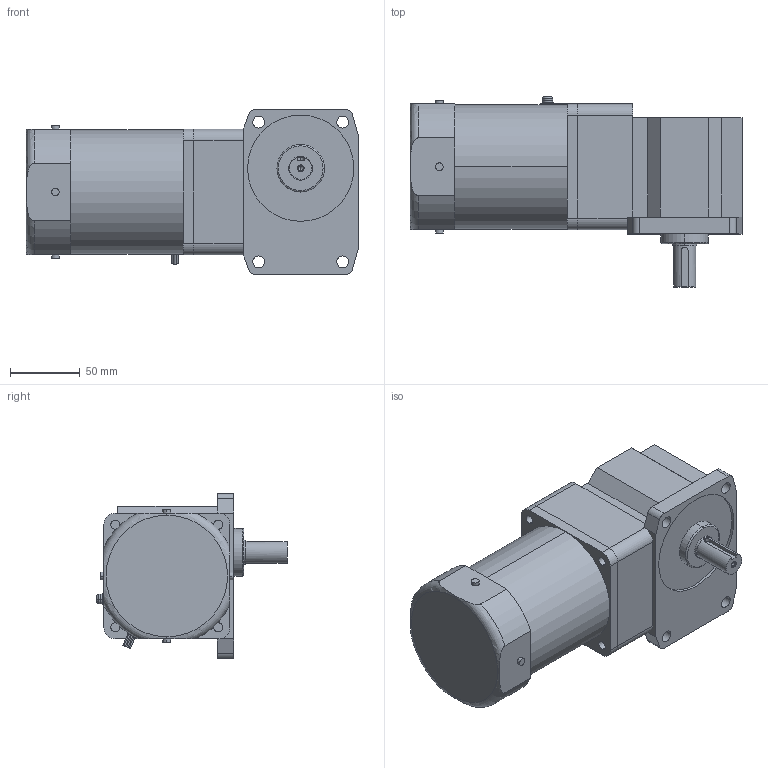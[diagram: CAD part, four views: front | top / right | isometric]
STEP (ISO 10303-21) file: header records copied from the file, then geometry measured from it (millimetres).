
FILE_DESCRIPTION(('starvars output'),'2;1');
FILE_NAME('5IK60GE-AW2U _ 5GE120RAA.stp','10:45:40 2015/05/11',( 'Thomas Industrial Network Germany GmbH'),( 'Thomas Industrial Network Germany GmbH'),'unknown preprocess','ACIS' ,'unknown authorization');
FILE_SCHEMA(('AUTOMOTIVE_DESIGN_CC2 {UNKNOWN IMPLEMENTATION LEVEL}'));
Length unit declared in the file: millimetre
Products named in the file (1): PRODUCT_ID_1683
Bounding box: 237.5 x 136 x 118 mm (x, y, z)
Volume: 1682136.8 mm3; surface area: 105388.5 mm2
Topology: 2 solids, 2 shells, 174 faces, 419 edges, 273 vertices
Faces by surface type: cylinder 81, plane 81, torus 8, cone 4
Entity records: 6285 total; most frequent: CARTESIAN_POINT 1061, ORIENTED_EDGE 834, DIRECTION 702, EDGE_CURVE 417, VERTEX_POINT 273, AXIS2_PLACEMENT_3D 242, VECTOR 218, LINE 218
